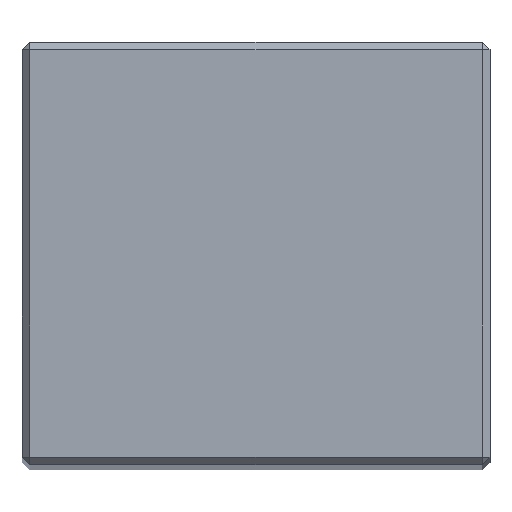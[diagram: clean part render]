
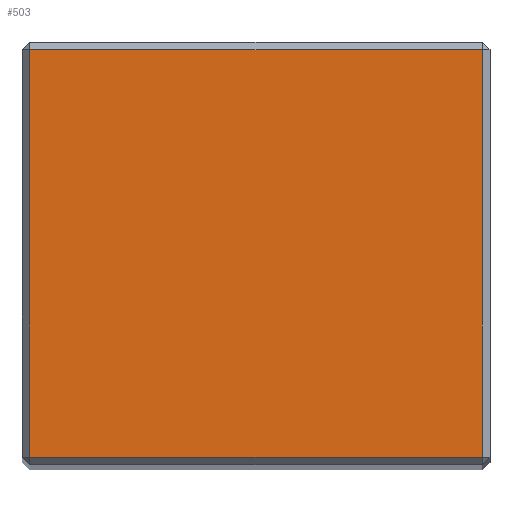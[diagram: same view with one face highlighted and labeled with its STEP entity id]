
A CAD part, top view. The second image highlights one B-rep face of the part: STEP entity #503.
In plain terms, the highlighted planar face has unit normal (0, 0, 1).
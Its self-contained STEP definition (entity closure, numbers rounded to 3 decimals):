
#24 = DIRECTION ( 'NONE',  ( -1., 0., 0. ) ) ;
#28 = CARTESIAN_POINT ( 'NONE',  ( 30., 55., 198. ) ) ;
#39 = DIRECTION ( 'NONE',  ( 0., -1., 0. ) ) ;
#48 = VECTOR ( 'NONE', #90, 1000. ) ;
#90 = DIRECTION ( 'NONE',  ( 1., 0., 0. ) ) ;
#119 = EDGE_CURVE ( 'NONE', #357, #252, #415, .T. ) ;
#138 = ORIENTED_EDGE ( 'NONE', *, *, #209, .T. ) ;
#162 = EDGE_CURVE ( 'NONE', #338, #357, #367, .T. ) ;
#184 = LINE ( 'NONE', #377, #48 ) ;
#207 = CARTESIAN_POINT ( 'NONE',  ( -30., 1., 198. ) ) ;
#209 = EDGE_CURVE ( 'NONE', #426, #338, #390, .T. ) ;
#214 = CARTESIAN_POINT ( 'NONE',  ( 31., 56., 198. ) ) ;
#226 = VECTOR ( 'NONE', #521, 1000. ) ;
#252 = VERTEX_POINT ( 'NONE', #207 ) ;
#299 = FACE_OUTER_BOUND ( 'NONE', #350, .T. ) ;
#319 = DIRECTION ( 'NONE',  ( -1., 0., 0. ) ) ;
#338 = VERTEX_POINT ( 'NONE', #28 ) ;
#341 = PLANE ( 'NONE',  #345 ) ;
#345 = AXIS2_PLACEMENT_3D ( 'NONE', #214, #419, #24 ) ;
#350 = EDGE_LOOP ( 'NONE', ( #412, #631, #571, #138 ) ) ;
#357 = VERTEX_POINT ( 'NONE', #455 ) ;
#367 = LINE ( 'NONE', #587, #466 ) ;
#377 = CARTESIAN_POINT ( 'NONE',  ( 31., 1., 198. ) ) ;
#389 = VECTOR ( 'NONE', #39, 1000. ) ;
#390 = LINE ( 'NONE', #453, #226 ) ;
#412 = ORIENTED_EDGE ( 'NONE', *, *, #162, .T. ) ;
#415 = LINE ( 'NONE', #530, #389 ) ;
#419 = DIRECTION ( 'NONE',  ( 0., 0., -1. ) ) ;
#426 = VERTEX_POINT ( 'NONE', #533 ) ;
#453 = CARTESIAN_POINT ( 'NONE',  ( 30., 56., 198. ) ) ;
#455 = CARTESIAN_POINT ( 'NONE',  ( -30., 55., 198. ) ) ;
#466 = VECTOR ( 'NONE', #319, 1000. ) ;
#503 = ADVANCED_FACE ( 'NONE', ( #299 ), #341, .F. ) ;
#521 = DIRECTION ( 'NONE',  ( 0., 1., 0. ) ) ;
#530 = CARTESIAN_POINT ( 'NONE',  ( -30., 56., 198. ) ) ;
#533 = CARTESIAN_POINT ( 'NONE',  ( 30., 1., 198. ) ) ;
#548 = EDGE_CURVE ( 'NONE', #252, #426, #184, .T. ) ;
#571 = ORIENTED_EDGE ( 'NONE', *, *, #548, .T. ) ;
#587 = CARTESIAN_POINT ( 'NONE',  ( -31., 55., 198. ) ) ;
#631 = ORIENTED_EDGE ( 'NONE', *, *, #119, .T. ) ;
